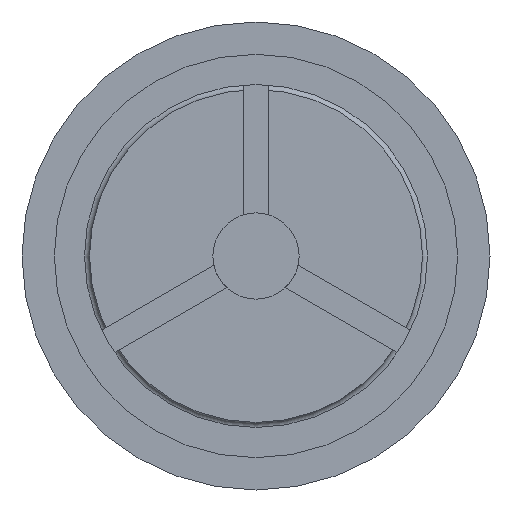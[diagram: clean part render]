
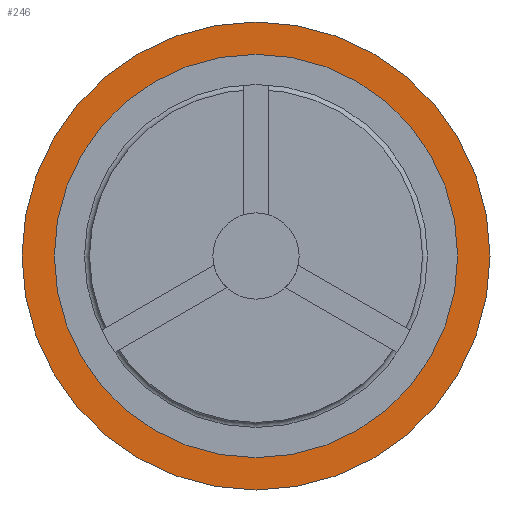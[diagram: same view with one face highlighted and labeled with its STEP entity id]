
A CAD part, front view. The second image highlights one B-rep face of the part: STEP entity #246.
In plain terms, the highlighted planar face has unit normal (0, -1, 0).
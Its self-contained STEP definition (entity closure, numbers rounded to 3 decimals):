
#246=ADVANCED_FACE('',(#11354,#11356),#11358,.T.);
#11354=FACE_BOUND('',#11355,.T.);
#11355=EDGE_LOOP('',(#18185,#18186));
#11356=FACE_BOUND('',#11357,.T.);
#11357=EDGE_LOOP('',(#18187,#18188));
#11358=PLANE('',#11359);
#11359=AXIS2_PLACEMENT_3D('',#11360,#11361,#11362);
#11360=CARTESIAN_POINT('',(2838.105,1722.812,0.));
#11361=DIRECTION('',(0.,-1.,0.));
#11362=DIRECTION('',(0.,0.,-1.));
#18185=ORIENTED_EDGE('',*,*,#23219,.T.);
#18186=ORIENTED_EDGE('',*,*,#23220,.T.);
#18187=ORIENTED_EDGE('',*,*,#23212,.F.);
#18188=ORIENTED_EDGE('',*,*,#23213,.F.);
#23212=EDGE_CURVE('',#26579,#26580,#26581,.T.);
#23213=EDGE_CURVE('',#26580,#26579,#26582,.T.);
#23219=EDGE_CURVE('',#26593,#26594,#26595,.T.);
#23220=EDGE_CURVE('',#26594,#26593,#26596,.T.);
#26579=VERTEX_POINT('',#34563);
#26580=VERTEX_POINT('',#34564);
#26581=CIRCLE('',#34565,93.5);
#26582=CIRCLE('',#34569,93.5);
#26593=VERTEX_POINT('',#34598);
#26594=VERTEX_POINT('',#34599);
#26595=CIRCLE('',#34600,108.5);
#26596=CIRCLE('',#34604,108.5);
#34563=CARTESIAN_POINT('',(2931.605,1722.812,93.5));
#34564=CARTESIAN_POINT('',(2838.105,1722.812,0.));
#34565=AXIS2_PLACEMENT_3D('',#34566,#34567,#34568);
#34566=CARTESIAN_POINT('',(2931.605,1722.812,0.));
#34567=DIRECTION('',(0.,-1.,0.));
#34568=DIRECTION('',(0.,0.,1.));
#34569=AXIS2_PLACEMENT_3D('',#34570,#34571,#34572);
#34570=CARTESIAN_POINT('',(2931.605,1722.812,0.));
#34571=DIRECTION('',(0.,-1.,0.));
#34572=DIRECTION('',(-1.,0.,0.));
#34598=CARTESIAN_POINT('',(2823.105,1722.812,0.));
#34599=CARTESIAN_POINT('',(3040.105,1722.812,0.));
#34600=AXIS2_PLACEMENT_3D('',#34601,#34602,#34603);
#34601=CARTESIAN_POINT('',(2931.605,1722.812,0.));
#34602=DIRECTION('',(0.,-1.,0.));
#34603=DIRECTION('',(-1.,0.,0.));
#34604=AXIS2_PLACEMENT_3D('',#34605,#34606,#34607);
#34605=CARTESIAN_POINT('',(2931.605,1722.812,0.));
#34606=DIRECTION('',(0.,-1.,0.));
#34607=DIRECTION('',(1.,0.,0.));
